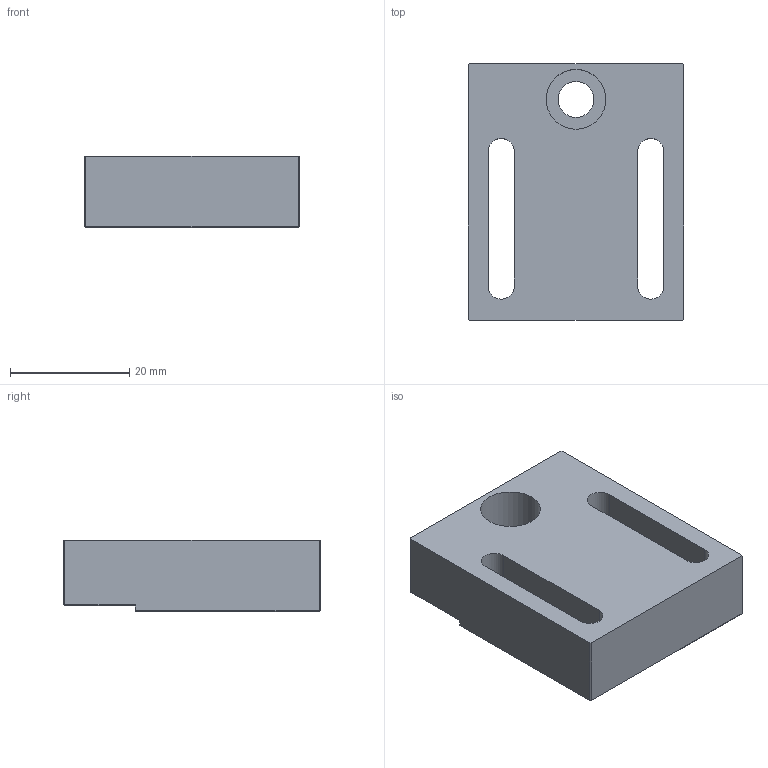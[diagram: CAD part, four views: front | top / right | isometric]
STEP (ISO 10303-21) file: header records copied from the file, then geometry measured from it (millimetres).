
FILE_DESCRIPTION(/* description */ (''),/* implementation_level */ '2;1');
FILE_NAME(/* name */ '',/* time_stamp */ '2025-12-08T17:37:15+08:00',/* author */ ('Q'),/* organization */ (''),/* preprocessor_version */ 'ST-DEVELOPER v20',/* originating_system */ 'Autodesk Inventor 2025',/* authorisation */ '');
FILE_SCHEMA (('AUTOMOTIVE_DESIGN { 1 0 10303 214 3 1 1 }'));
Length unit declared in the file: millimetre
Products named in the file (1): 90度反射镜底座
Bounding box: 36 x 43 x 12 mm (x, y, z)
Volume: 13117.6 mm3; surface area: 6265.9 mm2
Topology: 1 solids, 1 shells, 45 faces, 114 edges, 73 vertices
Faces by surface type: plane 35, cylinder 10
Full cylindrical faces by diameter (mm): 6 x1, 10 x1
Entity records: 1398 total; most frequent: CARTESIAN_POINT 233, ORIENTED_EDGE 228, DIRECTION 226, EDGE_CURVE 114, LINE 94, VECTOR 94, VERTEX_POINT 72, AXIS2_PLACEMENT_3D 66
